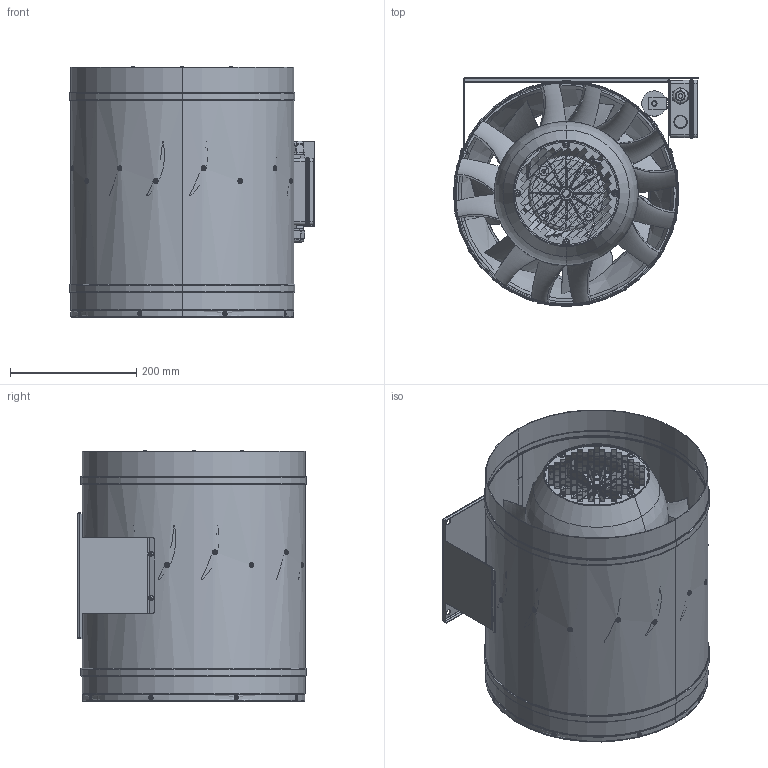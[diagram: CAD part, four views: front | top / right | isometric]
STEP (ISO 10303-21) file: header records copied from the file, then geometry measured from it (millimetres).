
FILE_DESCRIPTION (( 'STEP AP203' ), '1' );
FILE_NAME ('112757-04_EL355E201_step.step', '2018-08-08T10:29:31', ( '' ), ( '' ), 'SwSTEP 2.0', 'SolidWorks 2017', '' );
FILE_SCHEMA (( 'CONFIG_CONTROL_DESIGN' ));
Length unit declared in the file: millimetre
Products named in the file (1): 112757-04_EL355E201_step
Bounding box: 388.5 x 362.5 x 397.08 mm (x, y, z)
Surface area: 1870520.5 mm2 (no closed solid volume)
Topology: 0 solids, 67 shells, 1332 faces, 5210 edges, 3845 vertices
Faces by surface type: plane 681, cylinder 303, cone 126, bspline 112, torus 110
Entity records: 398855 total; most frequent: CARTESIAN_POINT 358741, ORIENTED_EDGE 7740, DIRECTION 7396, EDGE_CURVE 5204, VERTEX_POINT 3842, AXIS2_PLACEMENT_3D 2592, LINE 2212, VECTOR 2212
